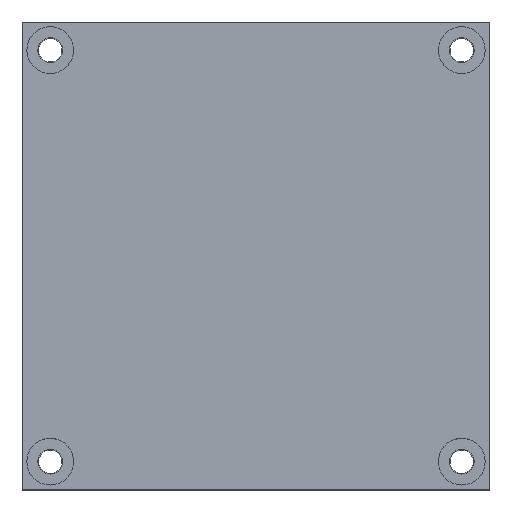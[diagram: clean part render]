
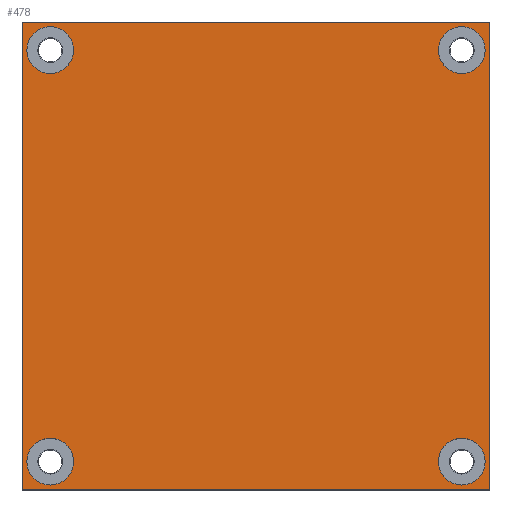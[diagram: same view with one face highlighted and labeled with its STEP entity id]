
A CAD part, top view. The second image highlights one B-rep face of the part: STEP entity #478.
In plain terms, the highlighted planar face has unit normal (0, 0, 1).
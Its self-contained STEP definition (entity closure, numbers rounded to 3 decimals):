
#62 = CARTESIAN_POINT ( 'NONE',  ( 44., 44., 18. ) ) ;
#69 = DIRECTION ( 'NONE',  ( 0., 1., 0. ) ) ;
#90 = VECTOR ( 'NONE', #69, 1000. ) ;
#112 = DIRECTION ( 'NONE',  ( 0., 0., 1. ) ) ;
#133 = ORIENTED_EDGE ( 'NONE', *, *, #2013, .T. ) ;
#206 = CARTESIAN_POINT ( 'NONE',  ( 50., 50., 18. ) ) ;
#217 = DIRECTION ( 'NONE',  ( -1., 0., 0. ) ) ;
#256 = CARTESIAN_POINT ( 'NONE',  ( -44., 44., 18. ) ) ;
#269 = VERTEX_POINT ( 'NONE', #318 ) ;
#316 = AXIS2_PLACEMENT_3D ( 'NONE', #256, #2819, #935 ) ;
#318 = CARTESIAN_POINT ( 'NONE',  ( 49., 44., 18. ) ) ;
#326 = AXIS2_PLACEMENT_3D ( 'NONE', #2563, #1625, #2757 ) ;
#331 = EDGE_LOOP ( 'NONE', ( #1326, #883 ) ) ;
#337 = ORIENTED_EDGE ( 'NONE', *, *, #1011, .T. ) ;
#347 = CARTESIAN_POINT ( 'NONE',  ( -50., -50., 18. ) ) ;
#359 = VERTEX_POINT ( 'NONE', #1294 ) ;
#362 = EDGE_LOOP ( 'NONE', ( #133, #1146, #337, #808 ) ) ;
#364 = DIRECTION ( 'NONE',  ( 1., 0., 0. ) ) ;
#371 = EDGE_CURVE ( 'NONE', #2052, #269, #2958, .T. ) ;
#411 = DIRECTION ( 'NONE',  ( 0., 0., 1. ) ) ;
#439 = EDGE_CURVE ( 'NONE', #2360, #359, #1065, .T. ) ;
#445 = VERTEX_POINT ( 'NONE', #463 ) ;
#448 = VERTEX_POINT ( 'NONE', #1862 ) ;
#451 = VERTEX_POINT ( 'NONE', #206 ) ;
#463 = CARTESIAN_POINT ( 'NONE',  ( -39., 44., 18. ) ) ;
#465 = CARTESIAN_POINT ( 'NONE',  ( 50., -50., 18. ) ) ;
#478 = ADVANCED_FACE ( 'NONE', ( #2055, #2960, #870, #1811, #2745 ), #640, .T. ) ;
#560 = DIRECTION ( 'NONE',  ( 1., 0., 0. ) ) ;
#577 = CARTESIAN_POINT ( 'NONE',  ( -39., -44., 18. ) ) ;
#590 = ORIENTED_EDGE ( 'NONE', *, *, #439, .F. ) ;
#631 = AXIS2_PLACEMENT_3D ( 'NONE', #62, #957, #1189 ) ;
#632 = CARTESIAN_POINT ( 'NONE',  ( -44., -44., 18. ) ) ;
#640 = PLANE ( 'NONE',  #2298 ) ;
#674 = EDGE_CURVE ( 'NONE', #448, #2501, #2447, .T. ) ;
#699 = CARTESIAN_POINT ( 'NONE',  ( -50., 50., 18. ) ) ;
#766 = CARTESIAN_POINT ( 'NONE',  ( -44., 44., 18. ) ) ;
#791 = LINE ( 'NONE', #347, #2735 ) ;
#808 = ORIENTED_EDGE ( 'NONE', *, *, #1033, .T. ) ;
#821 = LINE ( 'NONE', #1981, #2109 ) ;
#844 = EDGE_LOOP ( 'NONE', ( #2185, #1148 ) ) ;
#870 = FACE_BOUND ( 'NONE', #1563, .T. ) ;
#883 = ORIENTED_EDGE ( 'NONE', *, *, #674, .F. ) ;
#935 = DIRECTION ( 'NONE',  ( 1., 0., 0. ) ) ;
#957 = DIRECTION ( 'NONE',  ( 0., 0., 1. ) ) ;
#965 = DIRECTION ( 'NONE',  ( 0., 0., 1. ) ) ;
#967 = CIRCLE ( 'NONE', #2158, 5. ) ;
#990 = DIRECTION ( 'NONE',  ( 1., 0., 0. ) ) ;
#1007 = LINE ( 'NONE', #2353, #90 ) ;
#1011 = EDGE_CURVE ( 'NONE', #1671, #1982, #821, .T. ) ;
#1033 = EDGE_CURVE ( 'NONE', #1982, #1606, #791, .T. ) ;
#1065 = CIRCLE ( 'NONE', #326, 5. ) ;
#1116 = DIRECTION ( 'NONE',  ( 1., 0., 0. ) ) ;
#1145 = DIRECTION ( 'NONE',  ( 0., 0., 1. ) ) ;
#1146 = ORIENTED_EDGE ( 'NONE', *, *, #2081, .T. ) ;
#1148 = ORIENTED_EDGE ( 'NONE', *, *, #2378, .F. ) ;
#1150 = CIRCLE ( 'NONE', #316, 5. ) ;
#1176 = CARTESIAN_POINT ( 'NONE',  ( -50., -50., 18. ) ) ;
#1189 = DIRECTION ( 'NONE',  ( 1., 0., 0. ) ) ;
#1294 = CARTESIAN_POINT ( 'NONE',  ( 49., -44., 18. ) ) ;
#1326 = ORIENTED_EDGE ( 'NONE', *, *, #2311, .F. ) ;
#1334 = DIRECTION ( 'NONE',  ( 1., 0., 0. ) ) ;
#1359 = DIRECTION ( 'NONE',  ( 0., 0., 1. ) ) ;
#1375 = CARTESIAN_POINT ( 'NONE',  ( 39., 44., 18. ) ) ;
#1399 = CARTESIAN_POINT ( 'NONE',  ( -50., 50., 18. ) ) ;
#1432 = CIRCLE ( 'NONE', #2488, 5. ) ;
#1457 = EDGE_CURVE ( 'NONE', #445, #2182, #967, .T. ) ;
#1530 = CARTESIAN_POINT ( 'NONE',  ( -49., 44., 18. ) ) ;
#1547 = AXIS2_PLACEMENT_3D ( 'NONE', #2933, #112, #364 ) ;
#1563 = EDGE_LOOP ( 'NONE', ( #2790, #1991 ) ) ;
#1572 = CARTESIAN_POINT ( 'NONE',  ( 0., 0., 18. ) ) ;
#1606 = VERTEX_POINT ( 'NONE', #465 ) ;
#1625 = DIRECTION ( 'NONE',  ( 0., 0., 1. ) ) ;
#1671 = VERTEX_POINT ( 'NONE', #1399 ) ;
#1712 = AXIS2_PLACEMENT_3D ( 'NONE', #3018, #1359, #990 ) ;
#1737 = EDGE_CURVE ( 'NONE', #269, #2052, #2403, .T. ) ;
#1802 = DIRECTION ( 'NONE',  ( 0., 0., 1. ) ) ;
#1811 = FACE_BOUND ( 'NONE', #2426, .T. ) ;
#1862 = CARTESIAN_POINT ( 'NONE',  ( -49., -44., 18. ) ) ;
#1963 = ORIENTED_EDGE ( 'NONE', *, *, #2019, .F. ) ;
#1981 = CARTESIAN_POINT ( 'NONE',  ( -50., 50., 18. ) ) ;
#1982 = VERTEX_POINT ( 'NONE', #1176 ) ;
#1988 = CARTESIAN_POINT ( 'NONE',  ( 44., 44., 18. ) ) ;
#1991 = ORIENTED_EDGE ( 'NONE', *, *, #371, .F. ) ;
#2013 = EDGE_CURVE ( 'NONE', #1606, #451, #1007, .T. ) ;
#2019 = EDGE_CURVE ( 'NONE', #359, #2360, #2692, .T. ) ;
#2052 = VERTEX_POINT ( 'NONE', #1375 ) ;
#2055 = FACE_BOUND ( 'NONE', #331, .T. ) ;
#2060 = AXIS2_PLACEMENT_3D ( 'NONE', #1988, #1145, #2531 ) ;
#2081 = EDGE_CURVE ( 'NONE', #451, #1671, #2333, .T. ) ;
#2109 = VECTOR ( 'NONE', #2693, 1000. ) ;
#2158 = AXIS2_PLACEMENT_3D ( 'NONE', #766, #965, #2836 ) ;
#2182 = VERTEX_POINT ( 'NONE', #1530 ) ;
#2185 = ORIENTED_EDGE ( 'NONE', *, *, #1457, .F. ) ;
#2298 = AXIS2_PLACEMENT_3D ( 'NONE', #1572, #411, #1116 ) ;
#2311 = EDGE_CURVE ( 'NONE', #2501, #448, #1432, .T. ) ;
#2333 = LINE ( 'NONE', #699, #2406 ) ;
#2353 = CARTESIAN_POINT ( 'NONE',  ( 50., 50., 18. ) ) ;
#2360 = VERTEX_POINT ( 'NONE', #2749 ) ;
#2378 = EDGE_CURVE ( 'NONE', #2182, #445, #1150, .T. ) ;
#2403 = CIRCLE ( 'NONE', #631, 5. ) ;
#2406 = VECTOR ( 'NONE', #217, 1000. ) ;
#2426 = EDGE_LOOP ( 'NONE', ( #1963, #590 ) ) ;
#2447 = CIRCLE ( 'NONE', #1547, 5. ) ;
#2488 = AXIS2_PLACEMENT_3D ( 'NONE', #632, #1802, #1334 ) ;
#2501 = VERTEX_POINT ( 'NONE', #577 ) ;
#2531 = DIRECTION ( 'NONE',  ( 1., 0., 0. ) ) ;
#2563 = CARTESIAN_POINT ( 'NONE',  ( 44., -44., 18. ) ) ;
#2692 = CIRCLE ( 'NONE', #1712, 5. ) ;
#2693 = DIRECTION ( 'NONE',  ( 0., -1., 0. ) ) ;
#2735 = VECTOR ( 'NONE', #560, 1000. ) ;
#2745 = FACE_OUTER_BOUND ( 'NONE', #362, .T. ) ;
#2749 = CARTESIAN_POINT ( 'NONE',  ( 39., -44., 18. ) ) ;
#2757 = DIRECTION ( 'NONE',  ( 1., 0., 0. ) ) ;
#2790 = ORIENTED_EDGE ( 'NONE', *, *, #1737, .F. ) ;
#2819 = DIRECTION ( 'NONE',  ( 0., 0., 1. ) ) ;
#2836 = DIRECTION ( 'NONE',  ( 1., 0., 0. ) ) ;
#2933 = CARTESIAN_POINT ( 'NONE',  ( -44., -44., 18. ) ) ;
#2958 = CIRCLE ( 'NONE', #2060, 5. ) ;
#2960 = FACE_BOUND ( 'NONE', #844, .T. ) ;
#3018 = CARTESIAN_POINT ( 'NONE',  ( 44., -44., 18. ) ) ;
